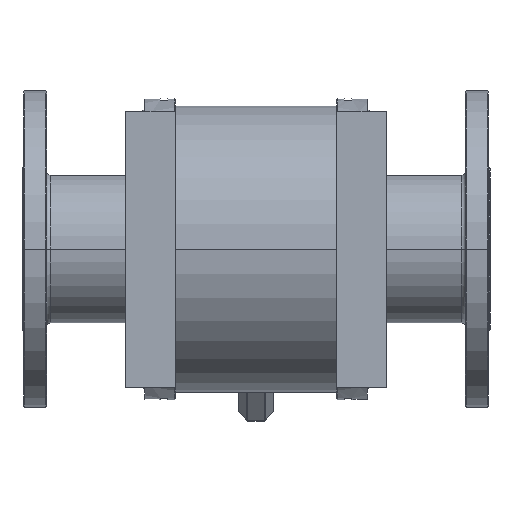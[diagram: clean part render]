
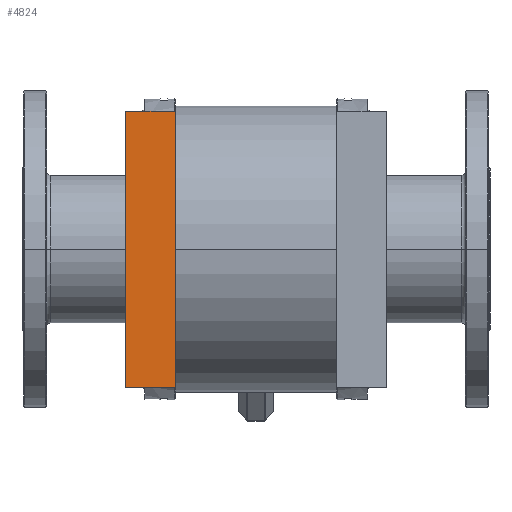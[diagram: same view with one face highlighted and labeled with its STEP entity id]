
A CAD part, front view. The second image highlights one B-rep face of the part: STEP entity #4824.
In plain terms, the highlighted planar face has unit normal (0, -1, 0).
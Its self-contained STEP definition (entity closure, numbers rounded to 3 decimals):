
#928 = ORIENTED_EDGE ( 'NONE', *, *, #1659, .T. ) ;
#1360 = ORIENTED_EDGE ( 'NONE', *, *, #7973, .F. ) ;
#1419 = VERTEX_POINT ( 'NONE', #7501 ) ;
#1632 = EDGE_CURVE ( 'NONE', #1419, #7028, #7548, .T. ) ;
#1659 = EDGE_CURVE ( 'NONE', #6496, #1419, #12703, .T. ) ;
#2001 = LINE ( 'NONE', #6160, #6546 ) ;
#2270 = DIRECTION ( 'NONE',  ( 0., 0., 1. ) ) ;
#2295 = DIRECTION ( 'NONE',  ( 0., 0., 1. ) ) ;
#3017 = ORIENTED_EDGE ( 'NONE', *, *, #1632, .T. ) ;
#3101 = DIRECTION ( 'NONE',  ( 1., 0., 0. ) ) ;
#3848 = DIRECTION ( 'NONE',  ( 0., 1., 0. ) ) ;
#4824 = ADVANCED_FACE ( 'NONE', ( #9027 ), #6518, .F. ) ;
#5236 = CARTESIAN_POINT ( 'NONE',  ( -105., -294., 180. ) ) ;
#5369 = DIRECTION ( 'NONE',  ( 0., 0., 1. ) ) ;
#6160 = CARTESIAN_POINT ( 'NONE',  ( -145., -294., 180. ) ) ;
#6496 = VERTEX_POINT ( 'NONE', #11449 ) ;
#6518 = PLANE ( 'NONE',  #9553 ) ;
#6546 = VECTOR ( 'NONE', #3101, 1000. ) ;
#7028 = VERTEX_POINT ( 'NONE', #5236 ) ;
#7301 = EDGE_LOOP ( 'NONE', ( #928, #3017, #1360, #12965 ) ) ;
#7481 = CARTESIAN_POINT ( 'NONE',  ( -145., -294., -180. ) ) ;
#7501 = CARTESIAN_POINT ( 'NONE',  ( -105., -294., -180. ) ) ;
#7548 = LINE ( 'NONE', #12559, #10245 ) ;
#7973 = EDGE_CURVE ( 'NONE', #8606, #7028, #2001, .T. ) ;
#8606 = VERTEX_POINT ( 'NONE', #9794 ) ;
#9027 = FACE_OUTER_BOUND ( 'NONE', #7301, .T. ) ;
#9428 = CARTESIAN_POINT ( 'NONE',  ( -170., -294., -180. ) ) ;
#9553 = AXIS2_PLACEMENT_3D ( 'NONE', #13152, #3848, #2295 ) ;
#9794 = CARTESIAN_POINT ( 'NONE',  ( -170., -294., 180. ) ) ;
#10138 = VECTOR ( 'NONE', #2270, 1000. ) ;
#10245 = VECTOR ( 'NONE', #5369, 1000. ) ;
#11449 = CARTESIAN_POINT ( 'NONE',  ( -170., -294., -180. ) ) ;
#11460 = LINE ( 'NONE', #9428, #10138 ) ;
#11615 = DIRECTION ( 'NONE',  ( 1., 0., 0. ) ) ;
#11762 = VECTOR ( 'NONE', #11615, 1000. ) ;
#12559 = CARTESIAN_POINT ( 'NONE',  ( -105., -294., -180. ) ) ;
#12703 = LINE ( 'NONE', #7481, #11762 ) ;
#12965 = ORIENTED_EDGE ( 'NONE', *, *, #13162, .F. ) ;
#13152 = CARTESIAN_POINT ( 'NONE',  ( -145., -294., 0. ) ) ;
#13162 = EDGE_CURVE ( 'NONE', #6496, #8606, #11460, .T. ) ;
